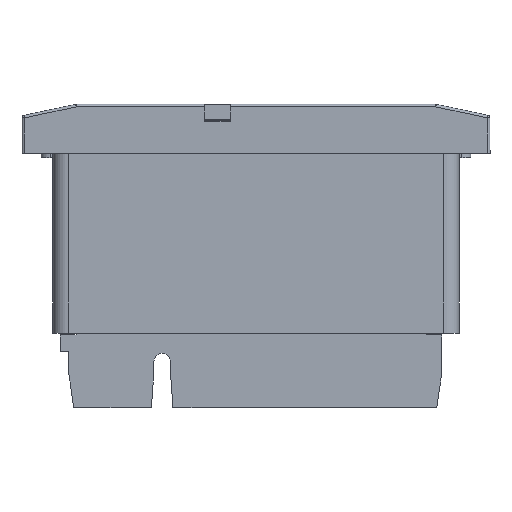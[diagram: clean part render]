
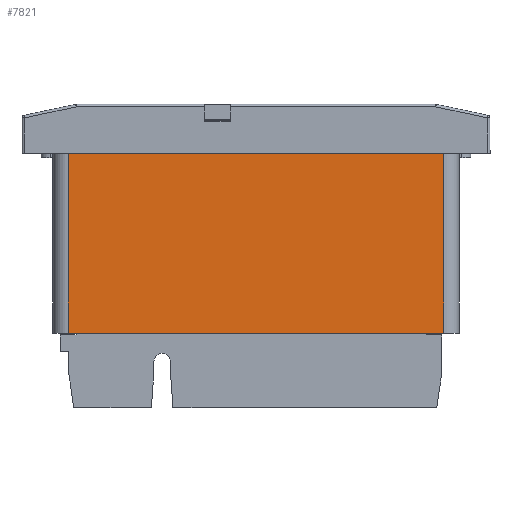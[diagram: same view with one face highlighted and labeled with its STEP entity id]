
A CAD part, front view. The second image highlights one B-rep face of the part: STEP entity #7821.
In plain terms, the highlighted planar face has unit normal (0, -1, 0).
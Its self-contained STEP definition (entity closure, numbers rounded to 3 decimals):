
#90 = ORIENTED_EDGE ( 'NONE', *, *, #311, .F. ) ;
#120 = VECTOR ( 'NONE', #9330, 1000. ) ;
#311 = EDGE_CURVE ( 'NONE', #2553, #5012, #7995, .T. ) ;
#421 = DIRECTION ( 'NONE',  ( 0., 0., -1. ) ) ;
#558 = VERTEX_POINT ( 'NONE', #9699 ) ;
#1477 = EDGE_CURVE ( 'NONE', #2553, #558, #8602, .T. ) ;
#1958 = DIRECTION ( 'NONE',  ( 0., 0., -1. ) ) ;
#2057 = CARTESIAN_POINT ( 'NONE',  ( 253.087, 57.908, 0. ) ) ;
#2553 = VERTEX_POINT ( 'NONE', #3310 ) ;
#2664 = EDGE_CURVE ( 'NONE', #558, #2792, #6263, .T. ) ;
#2688 = CARTESIAN_POINT ( 'NONE',  ( 179.987, 57.908, -35. ) ) ;
#2792 = VERTEX_POINT ( 'NONE', #6720 ) ;
#3310 = CARTESIAN_POINT ( 'NONE',  ( 179.987, 57.908, 0. ) ) ;
#3453 = DIRECTION ( 'NONE',  ( 1., 0., 0. ) ) ;
#3796 = EDGE_LOOP ( 'NONE', ( #90, #6244, #9958, #8650 ) ) ;
#3801 = AXIS2_PLACEMENT_3D ( 'NONE', #5814, #5059, #421 ) ;
#4285 = PLANE ( 'NONE',  #3801 ) ;
#5012 = VERTEX_POINT ( 'NONE', #2057 ) ;
#5059 = DIRECTION ( 'NONE',  ( 0., -1., 0. ) ) ;
#5678 = FACE_OUTER_BOUND ( 'NONE', #3796, .T. ) ;
#5814 = CARTESIAN_POINT ( 'NONE',  ( 179.987, 57.908, 9.5 ) ) ;
#5836 = CARTESIAN_POINT ( 'NONE',  ( 179.987, 57.908, 0. ) ) ;
#6244 = ORIENTED_EDGE ( 'NONE', *, *, #1477, .T. ) ;
#6263 = LINE ( 'NONE', #2688, #8084 ) ;
#6720 = CARTESIAN_POINT ( 'NONE',  ( 253.087, 57.908, -35. ) ) ;
#7523 = EDGE_CURVE ( 'NONE', #5012, #2792, #8143, .T. ) ;
#7773 = CARTESIAN_POINT ( 'NONE',  ( 216.537, 57.908, 0. ) ) ;
#7821 = ADVANCED_FACE ( 'NONE', ( #5678 ), #4285, .T. ) ;
#7995 = LINE ( 'NONE', #7773, #9854 ) ;
#8084 = VECTOR ( 'NONE', #3453, 1000. ) ;
#8143 = LINE ( 'NONE', #10071, #120 ) ;
#8364 = VECTOR ( 'NONE', #1958, 1000. ) ;
#8574 = DIRECTION ( 'NONE',  ( 1., 0., 0. ) ) ;
#8602 = LINE ( 'NONE', #5836, #8364 ) ;
#8650 = ORIENTED_EDGE ( 'NONE', *, *, #7523, .F. ) ;
#9330 = DIRECTION ( 'NONE',  ( 0., 0., -1. ) ) ;
#9699 = CARTESIAN_POINT ( 'NONE',  ( 179.987, 57.908, -35. ) ) ;
#9854 = VECTOR ( 'NONE', #8574, 1000. ) ;
#9958 = ORIENTED_EDGE ( 'NONE', *, *, #2664, .T. ) ;
#10071 = CARTESIAN_POINT ( 'NONE',  ( 253.087, 57.908, 0. ) ) ;
